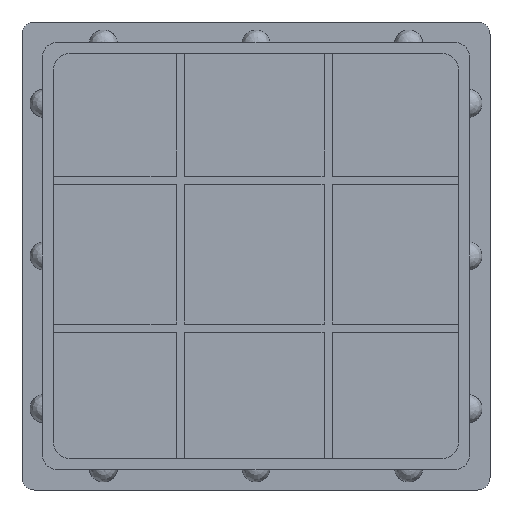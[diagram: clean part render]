
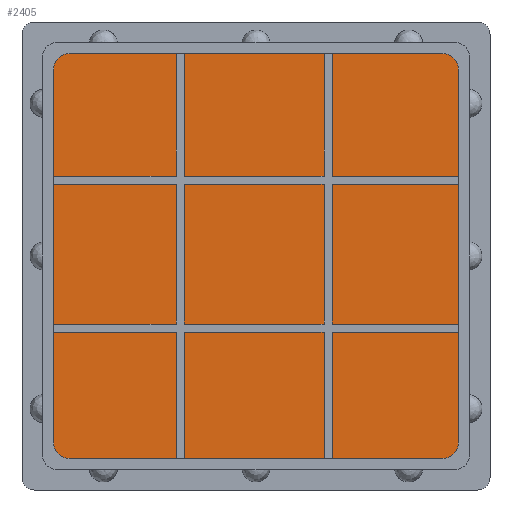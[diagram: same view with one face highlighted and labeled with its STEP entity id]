
A CAD part, front view. The second image highlights one B-rep face of the part: STEP entity #2405.
In plain terms, the highlighted planar face has unit normal (0, -1, 0).
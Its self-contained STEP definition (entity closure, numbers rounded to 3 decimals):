
#75=PLANE('',#2555);
#267=FACE_OUTER_BOUND('',#380,.T.);
#380=EDGE_LOOP('',(#2179,#2180,#2181,#2182));
#651=LINE('',#4751,#923);
#652=LINE('',#4753,#924);
#653=LINE('',#4755,#925);
#654=LINE('',#4756,#926);
#923=VECTOR('',#3105,71.4);
#924=VECTOR('',#3106,71.4);
#925=VECTOR('',#3107,71.4);
#926=VECTOR('',#3108,71.4);
#1207=VERTEX_POINT('',#4749);
#1208=VERTEX_POINT('',#4750);
#1209=VERTEX_POINT('',#4752);
#1210=VERTEX_POINT('',#4754);
#1563=EDGE_CURVE('',#1207,#1208,#651,.T.);
#1564=EDGE_CURVE('',#1209,#1207,#652,.T.);
#1565=EDGE_CURVE('',#1210,#1209,#653,.T.);
#1566=EDGE_CURVE('',#1208,#1210,#654,.T.);
#2179=ORIENTED_EDGE('',*,*,#1563,.F.);
#2180=ORIENTED_EDGE('',*,*,#1564,.F.);
#2181=ORIENTED_EDGE('',*,*,#1565,.F.);
#2182=ORIENTED_EDGE('',*,*,#1566,.F.);
#2405=ADVANCED_FACE('',(#267),#75,.F.);
#2555=AXIS2_PLACEMENT_3D('',#4748,#3103,#3104);
#3103=DIRECTION('center_axis',(0.,1.,0.));
#3104=DIRECTION('ref_axis',(0.,0.,1.));
#3105=DIRECTION('',(-1.,0.,0.));
#3106=DIRECTION('',(0.,0.,-1.));
#3107=DIRECTION('',(1.,0.,0.));
#3108=DIRECTION('',(0.,0.,1.));
#4748=CARTESIAN_POINT('Origin',(0.,3.4,0.));
#4749=CARTESIAN_POINT('',(35.7,3.4,-35.7));
#4750=CARTESIAN_POINT('',(-35.7,3.4,-35.7));
#4751=CARTESIAN_POINT('',(-35.7,3.4,-35.7));
#4752=CARTESIAN_POINT('',(35.7,3.4,35.7));
#4753=CARTESIAN_POINT('',(35.7,3.4,-35.7));
#4754=CARTESIAN_POINT('',(-35.7,3.4,35.7));
#4755=CARTESIAN_POINT('',(35.7,3.4,35.7));
#4756=CARTESIAN_POINT('',(-35.7,3.4,35.7));
